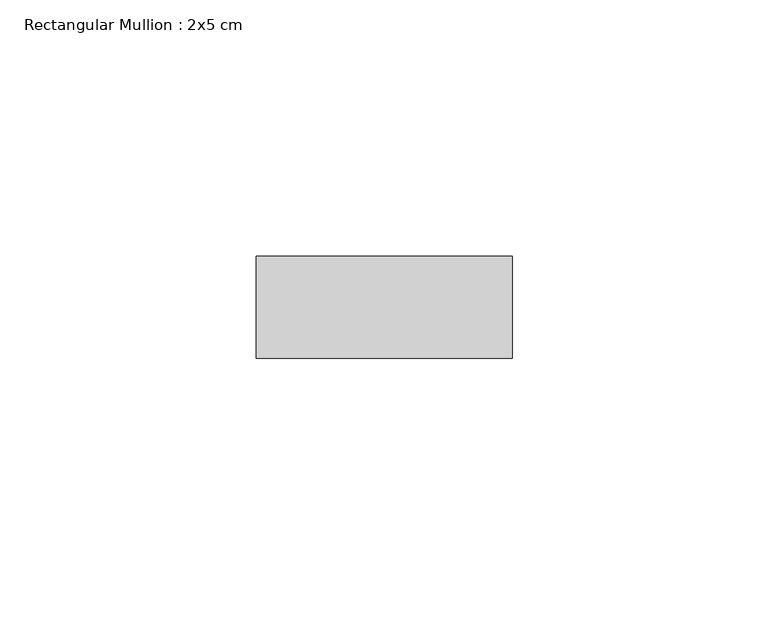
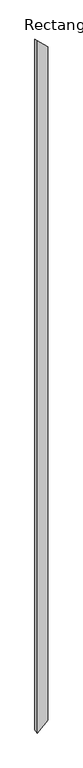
"""IFC4 building model written with IfcOpenShell, lengths in millimetres: member geometry, Rectangular Mullion : 2x5 cm."""

import ifcopenshell
import ifcopenshell.guid

model = None  # the IFC model being written
_history = None  # IfcOwnerHistory: only IFC2X3 demands one
_inside = {}  # id of a spatial element -> (the spatial element, [elements in it])
_under = {}  # id of a project, library or spatial element -> (it, [spatial elements below it])
_declared = {}  # id of a project -> (the project, [libraries it declares])
_typed = {}  # id of a type object -> (the type object, [elements of that type])
_made_of = {}  # id of a material, layer set ... -> (it, [elements and type objects made of it])


def new_model(schema):
    """Start an empty IFC model of exactly this schema.

    Asked for "IFC4X3", IfcOpenShell would pick the latest addendum, in which some entities
    have other attributes; the version numbers below select the first issue.
    IFC2X3 requires an IfcOwnerHistory on every rooted entity: one is made here for all.
    """
    global model, _history
    if schema == "IFC4X3":
        model = ifcopenshell.file(schema_version=(4, 3, 0, 0))
    else:
        model = ifcopenshell.file(schema=schema)
    _inside.clear()
    _under.clear()
    _declared.clear()
    _typed.clear()
    _made_of.clear()
    _history = None
    if model.schema == "IFC2X3":
        org = make("IfcOrganization", Name="unknown")
        user = make(
            "IfcPersonAndOrganization",
            ThePerson=make("IfcPerson", FamilyName="unknown"),
            TheOrganization=org,
        )
        app = make(
            "IfcApplication",
            ApplicationDeveloper=org,
            Version="unknown",
            ApplicationFullName="unknown",
            ApplicationIdentifier="unknown",
        )
        _history = make(
            "IfcOwnerHistory",
            OwningUser=user,
            OwningApplication=app,
            ChangeAction="ADDED",
            CreationDate=0,
        )
    return model


def make(cls, **values):
    """One entity of the class cls with the attributes given. An attribute that is None is left unset."""
    return model.create_entity(
        cls, **{name: value for name, value in values.items() if value is not None}
    )


def rooted(cls, **values):
    """An entity with a GlobalId (a new one), such as an element, a storey or a relation."""
    return make(cls, GlobalId=ifcopenshell.guid.new(), OwnerHistory=_history, **values)


def si_unit(unit_type, name, prefix=None):
    """IfcSIUnit, for example si_unit("LENGTHUNIT", "METRE", prefix="MILLI")."""
    return make("IfcSIUnit", UnitType=unit_type, Prefix=prefix, Name=name)


def assignment(units):
    """IfcUnitAssignment: the units of a project."""
    return None if units is None else make("IfcUnitAssignment", Units=units)


def point(xyz):
    """IfcCartesianPoint."""
    return None if xyz is None else make("IfcCartesianPoint", Coordinates=xyz)


def direction(xyz):
    """IfcDirection."""
    return None if xyz is None else make("IfcDirection", DirectionRatios=xyz)


def frame(location, z_axis=None, x_axis=None):
    """IfcAxis2Placement3D, a coordinate frame: its origin and axes. An axis left out is left unset."""
    return make(
        "IfcAxis2Placement3D",
        Location=point(location),
        Axis=direction(z_axis),
        RefDirection=direction(x_axis),
    )


def origin():
    """The frame at (0, 0, 0) with its axes left unset."""
    return frame((0.0, 0.0, 0.0))


def place(relative_to, where):
    """IfcLocalPlacement: puts the frame where relative to a parent placement (None: the world)."""
    return make(
        "IfcLocalPlacement", PlacementRelTo=relative_to, RelativePlacement=where
    )


def context(
    kind, dimensions, precision=None, world=None, true_north=None, identifier=None
):
    """IfcGeometricRepresentationContext, for example the 3D "Model" context."""
    return make(
        "IfcGeometricRepresentationContext",
        ContextIdentifier=identifier,
        ContextType=kind,
        CoordinateSpaceDimension=dimensions,
        Precision=precision,
        WorldCoordinateSystem=world,
        TrueNorth=true_north,
    )


def project(units=None, contexts=None):
    """IfcProject with its units and contexts."""
    return rooted(
        "IfcProject",
        Name="project",
        RepresentationContexts=contexts,
        UnitsInContext=assignment(units),
    )


def spatial(cls, under=None, at=None, **own):
    """A site, building, storey or space (cls), placed at a placement, below another one or the project."""
    s = rooted(cls, ObjectPlacement=at, **own)
    if under is not None:
        _under.setdefault(under.id(), (under, []))[1].append(s)
    return s


def faces_of(points, faces, orient=None, outer=None):
    """IfcFace entities. A face is a list of loops; a loop is a list of indices into points, from 0.

    orient and outer hold one flag for each loop. By default every Orientation is true, the
    first loop of a face is its IfcFaceOuterBound and the others are IfcFaceBound.
    """
    made = []
    for i, loops in enumerate(faces):
        bounds = []
        for j, loop in enumerate(loops):
            is_outer = j == 0 if outer is None else outer[i][j]
            bounds.append(
                make(
                    "IfcFaceOuterBound" if is_outer else "IfcFaceBound",
                    Bound=make("IfcPolyLoop", Polygon=[points[k] for k in loop]),
                    Orientation=True if orient is None else orient[i][j],
                )
            )
        made.append(make("IfcFace", Bounds=bounds))
    return made


def faceted_brep(points, faces, orient=None, outer=None, voids=None):
    """IfcFacetedBrep: a solid bounded by flat faces; with voids (closed shells), ...WithVoids."""
    shared = [point(p) for p in points]
    hull = make("IfcClosedShell", CfsFaces=faces_of(shared, faces, orient, outer))
    if voids is None:
        return make("IfcFacetedBrep", Outer=hull)
    return make(
        "IfcFacetedBrepWithVoids",
        Outer=hull,
        Voids=[
            make(cls, CfsFaces=faces_of(shared, fs, o, b)) for cls, fs, o, b in voids
        ],
    )


def shape(context_of_items, identifier, shape_type, items):
    """IfcShapeRepresentation: the items that make up one representation, for example the "Body"."""
    return make(
        "IfcShapeRepresentation",
        ContextOfItems=context_of_items,
        RepresentationIdentifier=identifier,
        RepresentationType=shape_type,
        Items=items,
    )


def source(mapping_origin, context_of_items, identifier, shape_type, items):
    """IfcRepresentationMap: a shape defined once, which mapped items show again and again."""
    return make(
        "IfcRepresentationMap",
        MappingOrigin=mapping_origin,
        MappedRepresentation=shape(context_of_items, identifier, shape_type, items),
    )


def transform(
    local_origin,
    x_axis=None,
    y_axis=None,
    z_axis=None,
    scale=None,
    scale2=None,
    scale3=None,
    uniform=True,
):
    """IfcCartesianTransformationOperator3D, or its non-uniform kind. x_axis, y_axis, z_axis: its Axis1, 2, 3."""
    if uniform:
        return make(
            "IfcCartesianTransformationOperator3D",
            Axis1=direction(x_axis),
            Axis2=direction(y_axis),
            LocalOrigin=point(local_origin),
            Scale=scale,
            Axis3=direction(z_axis),
        )
    return make(
        "IfcCartesianTransformationOperator3DnonUniform",
        Axis1=direction(x_axis),
        Axis2=direction(y_axis),
        LocalOrigin=point(local_origin),
        Scale=scale,
        Axis3=direction(z_axis),
        Scale2=scale2,
        Scale3=scale3,
    )


def mapped(mapping_source, mapping_target):
    """IfcMappedItem: shows the shape of a source again, moved by a transform."""
    return make(
        "IfcMappedItem", MappingSource=mapping_source, MappingTarget=mapping_target
    )


def made_of(thing, what):
    """Note that an element or type object is made of a material, layer set ...; save() writes the relation."""
    if what is not None:
        _made_of.setdefault(what.id(), (what, []))[1].append(thing)
    return thing


def element(
    cls,
    number,
    at=None,
    inside=None,
    cuts=None,
    type_object=None,
    material=None,
    context=None,
    identifier="Body",
    shape_type=None,
    held_by="IfcProductDefinitionShape",
    body=None,
    shapes=None,
    **own,
):
    """One element of the class cls, such as IfcWall. Its Tag is "e" and its number.

    at: its placement. inside: the storey or other place that contains it. cuts: it is an
    opening in that element (IfcRelVoidsElement). A single representation is given by context,
    identifier, shape_type and body (its items); several are given by shapes. held_by: the class
    of the entity that holds the representations. save() writes the other relations.
    """
    e = rooted(cls, Tag="e%d" % number, ObjectPlacement=at, **own)
    if body is not None:
        shapes = [shape(context, identifier, shape_type, body)]
    if shapes is not None:
        e.Representation = make(held_by, Representations=shapes)
    if inside is not None:
        _inside.setdefault(inside.id(), (inside, []))[1].append(e)
    if cuts is not None:
        rooted(
            "IfcRelVoidsElement", RelatingBuildingElement=cuts, RelatedOpeningElement=e
        )
    if type_object is not None:
        _typed.setdefault(type_object.id(), (type_object, []))[1].append(e)
    return made_of(e, material)


def aggregate(whole, parts):
    """IfcRelAggregates: a whole, such as a stair, and the parts it consists of."""
    return rooted("IfcRelAggregates", RelatingObject=whole, RelatedObjects=parts)


def save(model, path):
    """Write the relations noted so far, then the file.

    IfcRelAggregates (storeys below a building ...), IfcRelContainedInSpatialStructure (elements
    in a storey), IfcRelDefinesByType, IfcRelAssociatesMaterial and IfcRelDeclares: one each for
    every whole, place, type object, material and project.
    """
    for whole, parts in _under.values():
        aggregate(whole, parts)
    for where, things in _inside.values():
        rooted(
            "IfcRelContainedInSpatialStructure",
            RelatedElements=things,
            RelatingStructure=where,
        )
    for kind, things in _typed.values():
        rooted("IfcRelDefinesByType", RelatedObjects=things, RelatingType=kind)
    for what, things in _made_of.values():
        rooted("IfcRelAssociatesMaterial", RelatedObjects=things, RelatingMaterial=what)
    for by, libraries in _declared.values():
        rooted("IfcRelDeclares", RelatingContext=by, RelatedDefinitions=libraries)
    model.write(path)


def rectangular_mullion_2x5_cm_e88f7a66(model_context):
    return source(origin(), model_context, "Body", "Brep", [
        faceted_brep([(0.0, 20.0, -5.7469577), (50.0, 20.0, -53.638272), (50.0, 20.0, -3490.4657745), (0.0, 20.0, -3538.3570888), (0.0, 0.0, 0.0), (0.0, 0.0, -3544.1040465), (50.0, 0.0, -47.8913143), (50.0, 0.0, -3496.2127322)], [[[0, 1, 2, 3]], [[4, 0, 3, 5]], [[6, 4, 5, 7]], [[1, 6, 7, 2]], [[1, 0, 4, 6]], [[2, 7, 5, 3]]]),
    ])


if __name__ == "__main__":
    model = new_model("IFC4")
    model_context = context("Model", 3, world=origin())
    ifc_project = project(units=[si_unit("LENGTHUNIT", "METRE", prefix="MILLI")], contexts=[model_context])
    site = spatial("IfcSite", under=ifc_project)
    building = spatial("IfcBuilding", under=site)
    placement = place(None, origin())
    rectangular_mullion_2x5_cm_shape = rectangular_mullion_2x5_cm_e88f7a66(model_context)
    element("IfcMember", 1, ObjectType="Rectangular Mullion : 2x5 cm", at=placement, inside=building, context=model_context, shape_type="MappedRepresentation", body=[
        mapped(rectangular_mullion_2x5_cm_shape, transform((0.0, 0.0, 0.0), x_axis=(1.0, 0.0, 0.0), y_axis=(0.0, 1.0, 0.0), z_axis=(0.0, 0.0, 1.0))),
    ])
    save(model, "model.ifc")
